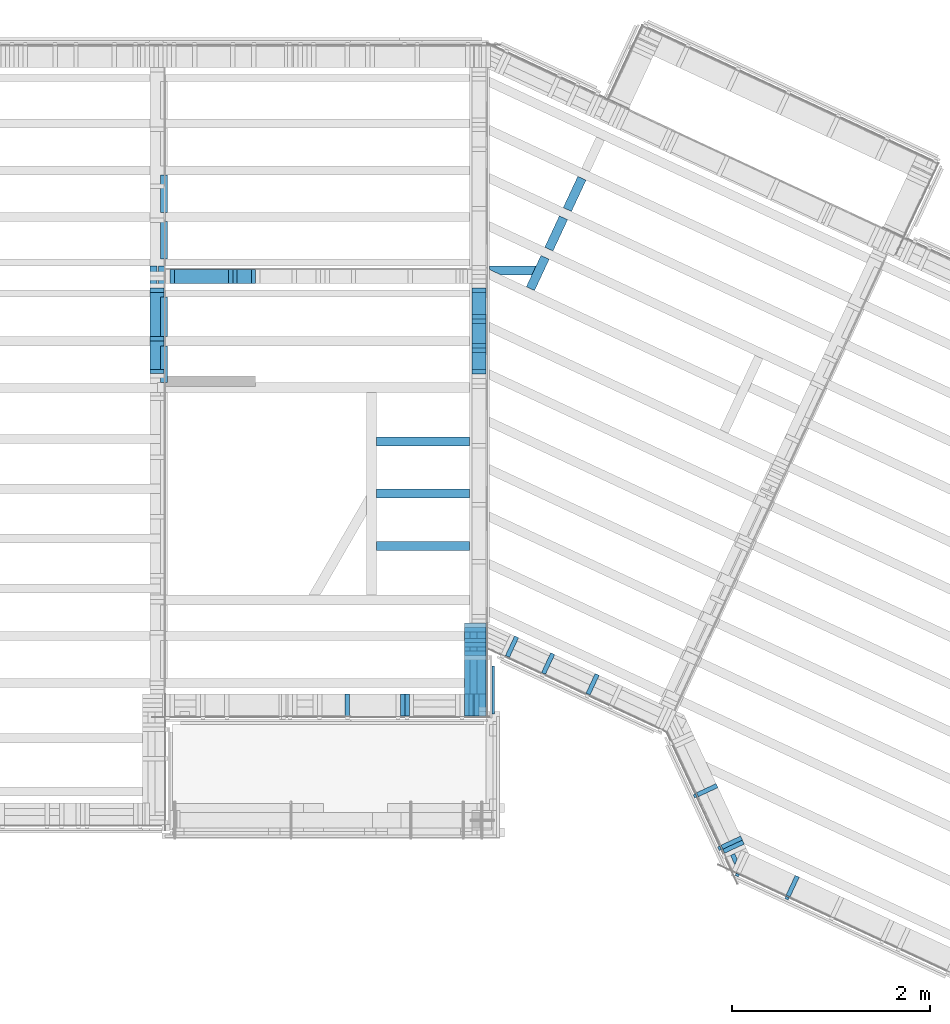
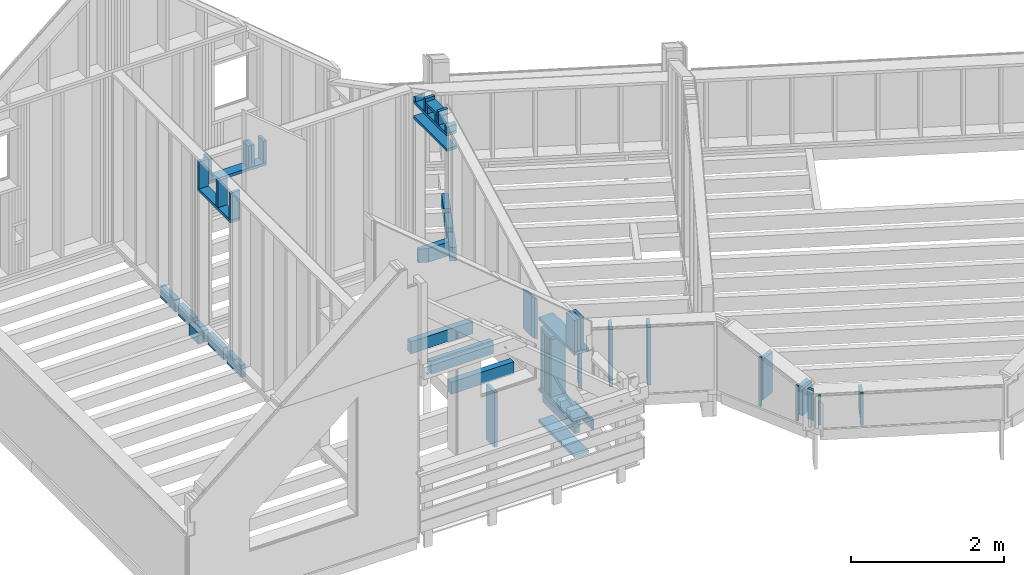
# One storey, part 16 of 24: 62 members.
"""IFC2X3 building model written with IfcOpenShell, lengths in metres."""

from ifc_helpers import new_model, si_unit, direction, frame, origin_with_axes, place, context, subcontext, project, spatial, faceted_brep, material, element, save


model = new_model("IFC2X3")

# Units and contexts
model_context = context("Model", 3, precision=1e-06, world=origin_with_axes(), true_north=direction((0.0, 1.0, 0.0)))
body_context = subcontext(model_context, "Body", "Model", "MODEL_VIEW")
ifc_project = project(units=[si_unit("LENGTHUNIT", "METRE"), si_unit("AREAUNIT", "SQUARE_METRE"), si_unit("VOLUMEUNIT", "CUBIC_METRE"), si_unit("PLANEANGLEUNIT", "RADIAN")], contexts=[model_context])

# Site, building, storey
site_placement = place(None, origin_with_axes())
site = spatial("IfcSite", under=ifc_project, at=site_placement, CompositionType="ELEMENT")
building_placement = place(site_placement, origin_with_axes())
building = spatial("IfcBuilding", under=site, at=building_placement, Name="Building 1", CompositionType="ELEMENT")
storey_placement = place(building_placement, origin_with_axes())
storey = spatial("IfcBuildingStorey", under=building, at=storey_placement, Name="Premier Etage", CompositionType="ELEMENT", Elevation=0.0)

# Members
ifc_material_1 = material(Name="NH II")
member_1_placement = place(storey_placement, frame((3.433, 4.8607176, 2.709), z_axis=(0.0, 0.0, -1.0), x_axis=(0.0, -1.0, 0.0)))
element("IfcMember", 1, at=member_1_placement, inside=storey, material=ifc_material_1, Name="Solive", context=body_context, shape_type="Brep", body=[
    faceted_brep([(0.0, -0.035, 0.096), (0.0, 0.035, 0.096), (0.0, 0.035, -0.096), (0.0, -0.035, -0.096), (0.3725, 0.035, 0.096), (0.3725, 0.035, -0.096), (0.3725, -0.035, 0.096), (0.3725, -0.035, -0.096)], [[[0, 1, 2, 3]], [[2, 1, 4, 5]], [[1, 0, 6, 4]], [[6, 7, 5, 4]], [[3, 2, 5, 7]], [[0, 3, 7, 6]]]),
])
for number, where, z_axis, x_axis in (
    (2, (3.433, 6.1181632, 2.709), (0.0, 0.0, -1.0), (0.0, -1.0, 0.0)),
    (3, (3.433, 6.5911088, 2.709), (0.0, 0.0, -1.0), (0.0, -1.0, 0.0)),
):
    element("IfcMember", number, at=place(storey_placement, frame(where, z_axis=z_axis, x_axis=x_axis)), inside=storey, material=ifc_material_1, Name="Solive", context=body_context, shape_type="Brep", body=[
        faceted_brep([(0.3809456, 0.035, -0.096), (0.3809456, 0.035, 0.096), (0.3809456, -0.035, 0.096), (0.3809456, -0.035, -0.096), (0.0, 0.035, 0.096), (0.0, -0.035, 0.096), (0.0, 0.035, -0.096), (0.0, -0.035, -0.096)], [[[0, 1, 2, 3]], [[2, 1, 4, 5]], [[1, 0, 6, 4]], [[0, 3, 7, 6]], [[3, 2, 5, 7]], [[7, 5, 4, 6]]]),
    ])
ifc_material_2 = material(Name="Epicéa C24")
member_2_placement = place(storey_placement, frame((6.586, 1.7257125, 3.8361408), z_axis=(-1.0, 0.0, 0.0), x_axis=(0.0, 1.0, 0.0)))
element("IfcMember", 4, at=member_2_placement, inside=storey, material=ifc_material_2, Name="Montant", context=body_context, shape_type="Brep", body=[
    faceted_brep([(0.0, -0.0225, 0.11), (0.0, 0.0225, 0.11), (0.0, 0.0225, -0.11), (0.0, -0.0225, -0.11), (0.2807619, 0.0225, 0.11), (0.2807619, 0.0225, -0.11), (0.2807619, -0.0225, 0.11), (0.2807619, -0.0225, -0.11)], [[[0, 1, 2, 3]], [[2, 1, 4, 5]], [[1, 0, 6, 4]], [[7, 5, 4, 6]], [[3, 2, 5, 7]], [[0, 3, 7, 6]]]),
])
member_3_placement = place(storey_placement, frame((3.413, 5.6672176, 2.709), z_axis=(0.0, 0.0, -1.0), x_axis=(0.0, -1.0, 0.0)))
element("IfcMember", 5, at=member_3_placement, inside=storey, material=ifc_material_1, Name="Solive", context=body_context, shape_type="Brep", body=[
    faceted_brep([(0.0, -0.035, 0.096), (0.0, 0.035, 0.096), (0.0, 0.035, -0.096), (0.0, -0.035, -0.096), (0.242, 0.035, 0.096), (0.242, 0.035, -0.096), (0.242, -0.035, 0.096), (0.242, -0.035, -0.096)], [[[0, 1, 2, 3]], [[2, 1, 4, 5]], [[1, 0, 6, 4]], [[5, 4, 6, 7]], [[3, 2, 5, 7]], [[0, 3, 7, 6]]]),
])
member_4_placement = place(storey_placement, frame((3.433, 5.3552176, 2.709), z_axis=(0.0, 0.0, -1.0), x_axis=(0.0, -1.0, 0.0)))
element("IfcMember", 6, at=member_4_placement, inside=storey, material=ifc_material_1, Name="Solive", context=body_context, shape_type="Brep", body=[
    faceted_brep([(0.0, 0.035, -0.096), (0.0, -0.035, -0.096), (0.0, -0.035, 0.096), (0.0, 0.035, 0.096), (0.4025, -0.035, -0.096), (0.4025, -0.035, 0.096), (0.4025, 0.035, -0.096), (0.4025, 0.035, 0.096)], [[[0, 1, 2, 3]], [[2, 1, 4, 5]], [[1, 0, 6, 4]], [[5, 4, 6, 7]], [[3, 2, 5, 7]], [[0, 3, 7, 6]]]),
])
member_5_placement = place(storey_placement, frame((6.6235, 4.8605254, 5.4693053), z_axis=(1.0, 0.0, 0.0), x_axis=(0.0, 0.0, -1.0)))
element("IfcMember", 7, at=member_5_placement, inside=storey, material=ifc_material_2, Name="Montant", context=body_context, shape_type="Brep", body=[
    faceted_brep([(0.0, 0.0225, 0.0725), (0.0, 0.0225, -0.0725), (0.0, -0.0225, -0.0725), (0.0, -0.0225, 0.0725), (0.1183053, 0.0225, -0.0725), (0.1183053, -0.0225, -0.0725), (0.1183053, 0.0225, 0.0725), (0.1183053, -0.0225, 0.0725)], [[[0, 1, 2, 3]], [[2, 1, 4, 5]], [[1, 0, 6, 4]], [[5, 4, 6, 7]], [[3, 2, 5, 7]], [[0, 3, 7, 6]]]),
])
member_6_placement = place(storey_placement, frame((6.586, 1.1578281, 2.8725), z_axis=(-1.0, 0.0, 0.0), x_axis=(0.0, 1.0, 0.0)))
element("IfcMember", 8, at=member_6_placement, inside=storey, material=ifc_material_2, Name="Montant", context=body_context, shape_type="Brep", body=[
    faceted_brep([(0.8486462, 0.0225, -0.11), (0.8486462, 0.0225, 0.11), (0.8486462, -0.0225, 0.11), (0.8486462, -0.0225, -0.11), (0.0, -0.0225, 0.11), (0.0, -0.0225, -0.11), (0.0, 0.0225, -0.11), (0.0, 0.0225, 0.11)], [[[0, 1, 2, 3]], [[4, 5, 3, 2]], [[5, 6, 0, 3]], [[6, 7, 1, 0]], [[7, 4, 2, 1]], [[6, 5, 4, 7]]]),
])
member_7_placement = place(storey_placement, frame((6.6235, 5.4452176, 5.0835), z_axis=(1.0, 0.0, 0.0), x_axis=(0.0, -1.0, 0.0)))
element("IfcMember", 9, at=member_7_placement, inside=storey, material=ifc_material_2, Name="Montant", context=body_context, shape_type="Brep", body=[
    faceted_brep([(0.0, 0.0225, -0.0725), (0.0, -0.0225, -0.0725), (0.0, -0.0225, 0.0725), (0.0, 0.0225, 0.0725), (0.87, 0.0225, -0.0725), (0.87, -0.0225, -0.0725), (0.87, 0.0225, 0.0725), (0.87, -0.0225, 0.0725)], [[[0, 1, 2, 3]], [[1, 0, 4, 5]], [[0, 3, 6, 4]], [[5, 4, 6, 7]], [[2, 1, 5, 7]], [[3, 2, 7, 6]]]),
])
member_8_placement = place(storey_placement, frame((6.586, 1.7482125, 3.8136408), z_axis=(1.0, 0.0, 0.0), x_axis=(0.0, 0.0, -1.0)))
element("IfcMember", 10, at=member_8_placement, inside=storey, material=ifc_material_2, Name="Montant", context=body_context, shape_type="Brep", body=[
    faceted_brep([(0.9186408, -0.0225, -0.11), (0.9186408, 0.0225, -0.11), (0.9186408, 0.0225, 0.11), (0.9186408, -0.0225, 0.11), (0.0, -0.0225, 0.11), (0.0, -0.0225, -0.11), (0.0, 0.0225, -0.11), (0.0, 0.0225, 0.11)], [[[0, 1, 2, 3]], [[0, 3, 4, 5]], [[1, 0, 5, 6]], [[2, 1, 6, 7]], [[3, 2, 7, 4]], [[4, 7, 6, 5]]]),
])
member_9_placement = place(storey_placement, frame((9.742866, -0.7329767, 3.3186496), z_axis=(-0.4226183, -0.9063078, 0.0), x_axis=(0.0, 0.0, -1.0)))
element("IfcMember", 11, at=member_9_placement, inside=storey, material=ifc_material_2, Name="latte 27/40", context=body_context, shape_type="Brep", body=[
    faceted_brep([(0.5086496, -0.02, 0.012), (0.0, -0.02, 0.012), (0.0, -0.02, -0.012), (0.5086496, -0.02, -0.012), (0.5086496, 0.02, -0.012), (0.0, 0.02, -0.012), (0.0, 0.02, 0.012), (0.5086496, 0.02, 0.012)], [[[0, 1, 2, 3]], [[4, 3, 2, 5]], [[6, 7, 4, 5]], [[0, 7, 6, 1]], [[7, 0, 3, 4]], [[1, 6, 5, 2]]]),
])
member_10_placement = place(storey_placement, frame((6.6235, 4.5977176, 5.4744199), z_axis=(1.0, 0.0, 0.0), x_axis=(0.0, 0.0, -1.0)))
element("IfcMember", 12, at=member_10_placement, inside=storey, material=ifc_material_2, Name="Montant", context=body_context, shape_type="Brep", body=[
    faceted_brep([(0.0235466, -0.0225, -0.0725), (0.0235466, -0.0225, 0.0725), (0.0, 0.0225, 0.0725), (0.0, 0.0225, -0.0725), (0.1234199, -0.0225, 0.0725), (0.1234199, 0.0225, 0.0725), (0.1234199, -0.0225, -0.0725), (0.1234199, 0.0225, -0.0725)], [[[0, 1, 2, 3]], [[2, 1, 4, 5]], [[1, 0, 6, 4]], [[5, 4, 6, 7]], [[0, 3, 7, 6]], [[3, 2, 5, 7]]]),
])
member_11_placement = place(storey_placement, frame((3.326, 5.6672176, 2.709), z_axis=(0.0, 0.0, -1.0), x_axis=(0.0, -1.0, 0.0)))
element("IfcMember", 13, at=member_11_placement, inside=storey, material=ifc_material_1, Name="Solive", context=body_context, shape_type="Brep", body=[
    faceted_brep([(0.0, -0.035, 0.096), (0.0, 0.035, 0.096), (0.0, 0.035, -0.096), (0.0, -0.035, -0.096), (0.242, 0.035, 0.096), (0.242, 0.035, -0.096), (0.242, -0.035, 0.096), (0.242, -0.035, -0.096)], [[[0, 1, 2, 3]], [[2, 1, 4, 5]], [[1, 0, 6, 4]], [[5, 4, 6, 7]], [[3, 2, 5, 7]], [[0, 3, 7, 6]]]),
])
member_12_placement = place(storey_placement, frame((7.2003883, 5.6212176, 2.695), z_axis=(0.0, 0.0, -1.0), x_axis=(-1.0, 0.0, 0.0)))
element("IfcMember", 14, at=member_12_placement, inside=storey, material=ifc_material_1, Name="Solive", context=body_context, shape_type="Brep", body=[
    faceted_brep([(0.0, 0.046, -0.11), (0.0429003, -0.046, -0.11), (0.0429003, -0.046, 0.11), (0.0, 0.046, 0.11), (0.3487381, -0.046, -0.11), (0.3487381, -0.046, 0.11), (0.4723883, 0.046, -0.11), (0.4723883, 0.011659, -0.11), (0.4723883, 0.011659, 0.11), (0.4723883, 0.046, 0.11)], [[[0, 1, 2, 3]], [[2, 1, 4, 5]], [[1, 0, 6, 7, 4]], [[5, 4, 7, 8]], [[8, 7, 6, 9]], [[3, 2, 5, 8, 9]], [[9, 6, 0, 3]]]),
])
for number, where, z_axis, x_axis in (
    (15, (5.587, 2.8332176, 2.709), (0.0, 0.0, -1.0), (1.0, 0.0, 0.0)),
    (16, (5.587, 3.3632176, 2.709), (0.0, 0.0, -1.0), (1.0, 0.0, 0.0)),
):
    element("IfcMember", number, at=place(storey_placement, frame(where, z_axis=z_axis, x_axis=x_axis)), inside=storey, material=ifc_material_1, Name="Solive", context=body_context, shape_type="Brep", body=[
        faceted_brep([(0.941, -0.046, 0.096), (0.941, -0.046, -0.096), (0.941, 0.046, -0.096), (0.941, 0.046, 0.096), (0.0, -0.046, -0.096), (0.0, -0.046, 0.096), (0.0, 0.046, 0.096), (0.0, 0.046, -0.096)], [[[0, 1, 2, 3]], [[4, 5, 6, 7]], [[3, 6, 5, 0]], [[2, 7, 6, 3]], [[1, 4, 7, 2]], [[0, 5, 4, 1]]]),
    ])
member_13_placement = place(storey_placement, frame((9.0592888, -0.227681, 3.3710833), z_axis=(-0.9063078, -0.4226183, 0.0), x_axis=(0.0, 0.0, -1.0)))
element("IfcMember", 17, at=member_13_placement, inside=storey, material=ifc_material_2, Name="latte 27/40", context=body_context, shape_type="Brep", body=[
    faceted_brep([(0.5610833, 0.02, -0.012), (0.5610833, 0.02, 0.012), (0.5610833, -0.02, 0.012), (0.5610833, -0.02, -0.012), (0.0, 0.02, 0.012), (0.0, 0.02, -0.012), (0.0, -0.02, -0.012), (0.0, -0.02, 0.012)], [[[0, 1, 2, 3]], [[4, 5, 6, 7]], [[3, 6, 5, 0]], [[2, 7, 6, 3]], [[1, 4, 7, 2]], [[0, 5, 4, 1]]]),
])
member_14_placement = place(storey_placement, frame((7.4791913, 6.1562674, 2.695), z_axis=(0.0, 0.0, -1.0), x_axis=(-0.4226183, -0.9063078, 0.0)))
element("IfcMember", 18, at=member_14_placement, inside=storey, material=ifc_material_1, Name="Solive", context=body_context, shape_type="Brep", body=[
    faceted_brep([(0.0, -0.046, -0.11), (0.0, -0.046, 0.11), (0.0, 0.046, 0.11), (0.0, 0.046, -0.11), (0.3499101, 0.046, -0.11), (0.3499101, -0.046, -0.11), (0.3499101, 0.046, 0.11), (0.3499101, -0.046, 0.11)], [[[0, 1, 2, 3]], [[4, 5, 0, 3]], [[6, 4, 3, 2]], [[7, 6, 2, 1]], [[5, 7, 1, 0]], [[7, 5, 4, 6]]]),
])
member_15_placement = place(storey_placement, frame((6.586, 1.1128281, 3.9603151), z_axis=(-1.0, 0.0, 0.0), x_axis=(0.0, 1.0, 0.0)))
element("IfcMember", 19, at=member_15_placement, inside=storey, material=ifc_material_2, Name="Montant", context=body_context, shape_type="Brep", body=[
    faceted_brep([(0.9386462, -0.0225, -0.11), (0.9386462, 0.0225, -0.11), (0.9386462, 0.0225, 0.11), (0.9386462, -0.0225, 0.11), (0.0, 0.0225, 0.11), (0.0, 0.0225, -0.11), (0.0, -0.0225, -0.11), (0.0, -0.0225, 0.11)], [[[0, 1, 2, 3]], [[4, 5, 6, 7]], [[2, 4, 7, 3]], [[1, 5, 4, 2]], [[0, 6, 5, 1]], [[3, 7, 6, 0]]]),
])
member_16_placement = place(storey_placement, frame((6.586, 1.3328281, 2.8275), z_axis=(-1.0, 0.0, 0.0), x_axis=(0.0, 1.0, 0.0)))
element("IfcMember", 20, at=member_16_placement, inside=storey, material=ifc_material_2, Name="Lisse basse", context=body_context, shape_type="Brep", body=[
    faceted_brep([(0.0, 0.0225, -0.11), (0.7186462, 0.0225, -0.11), (0.7186462, -0.0225, -0.11), (0.0, -0.0225, -0.11), (0.7186462, 0.0225, 0.11), (0.7186462, -0.0225, 0.11), (0.0, -0.0225, 0.11), (0.0, 0.0225, 0.11)], [[[0, 1, 2, 3]], [[2, 1, 4, 5]], [[3, 6, 7, 0]], [[6, 5, 4, 7]], [[7, 4, 1, 0]], [[3, 2, 5, 6]]]),
])
member_17_placement = place(storey_placement, frame((6.6235, 5.4452176, 5.3285), z_axis=(1.0, 0.0, 0.0), x_axis=(0.0, -1.0, 0.0)))
element("IfcMember", 21, at=member_17_placement, inside=storey, material=ifc_material_2, Name="Montant", context=body_context, shape_type="Brep", body=[
    faceted_brep([(0.0, 0.0225, -0.0725), (0.0, -0.0225, -0.0725), (0.0, -0.0225, 0.0725), (0.0, 0.0225, 0.0725), (0.87, 0.0225, -0.0725), (0.87, -0.0225, -0.0725), (0.87, 0.0225, 0.0725), (0.87, -0.0225, 0.0725)], [[[0, 1, 2, 3]], [[1, 0, 4, 5]], [[0, 3, 6, 4]], [[5, 4, 6, 7]], [[2, 1, 5, 7]], [[3, 2, 7, 6]]]),
])
member_18_placement = place(storey_placement, frame((6.586, 1.1128281, 2.3275), z_axis=(-1.0, 0.0, 0.0), x_axis=(0.0, 1.0, 0.0)))
element("IfcMember", 22, at=member_18_placement, inside=storey, material=ifc_material_2, Name="Montant", context=body_context, shape_type="Brep", body=[
    faceted_brep([(0.9386462, -0.0225, -0.11), (0.9386462, 0.0225, -0.11), (0.9386462, 0.0225, 0.11), (0.9386462, -0.0225, 0.11), (0.0, 0.0225, 0.11), (0.0, 0.0225, -0.11), (0.0, -0.0225, -0.11), (0.0, -0.0225, 0.11)], [[[0, 1, 2, 3]], [[4, 5, 6, 7]], [[2, 4, 7, 3]], [[1, 5, 4, 2]], [[0, 6, 5, 1]], [[3, 7, 6, 0]]]),
])
member_19_placement = place(storey_placement, frame((6.6235, 5.1544112, 5.565), z_axis=(1.0, 0.0, 0.0), x_axis=(0.0, 0.0, -1.0)))
element("IfcMember", 23, at=member_19_placement, inside=storey, material=ifc_material_2, Name="Montant", context=body_context, shape_type="Brep", body=[
    faceted_brep([(0.214, -0.0225, -0.0725), (0.214, 0.0225, -0.0725), (0.214, 0.0225, 0.0725), (0.214, -0.0225, 0.0725), (0.0, 0.0225, -0.0725), (0.0, 0.0225, 0.0725), (0.0, -0.0225, -0.0725), (0.0, -0.0225, 0.0725)], [[[0, 1, 2, 3]], [[2, 1, 4, 5]], [[1, 0, 6, 4]], [[7, 5, 4, 6]], [[0, 3, 7, 6]], [[3, 2, 5, 7]]]),
])
for number, where, z_axis, x_axis in (
    (24, (7.292432, 5.7557608, 2.695), (0.0, 0.0, -1.0), (-0.4226183, -0.9063078, 0.0)),
    (25, (7.6659506, 6.556774, 2.695), (0.0, 0.0, -1.0), (-0.4226183, -0.9063078, 0.0)),
):
    element("IfcMember", number, at=place(storey_placement, frame(where, z_axis=z_axis, x_axis=x_axis)), inside=storey, material=ifc_material_1, Name="Solive", context=body_context, shape_type="Brep", body=[
        faceted_brep([(0.0, -0.046, -0.11), (0.0, -0.046, 0.11), (0.0, 0.046, 0.11), (0.0, 0.046, -0.11), (0.3499101, 0.046, -0.11), (0.3499101, -0.046, -0.11), (0.3499101, 0.046, 0.11), (0.3499101, -0.046, 0.11)], [[[0, 1, 2, 3]], [[4, 5, 0, 3]], [[6, 4, 3, 2]], [[7, 6, 2, 1]], [[5, 7, 1, 0]], [[7, 5, 4, 6]]]),
    ])
member_20_placement = place(storey_placement, frame((9.1816403, -0.1706276, 3.3441899), z_axis=(-0.9063078, -0.4226183, 0.0), x_axis=(0.0, 0.0, -1.0)))
element("IfcMember", 26, at=member_20_placement, inside=storey, material=ifc_material_2, Name="Montant", context=body_context, shape_type="Brep", body=[
    faceted_brep([(0.0167001, 0.0225, 0.11), (0.0167001, 0.0225, -0.11), (0.0, -0.0225, -0.11), (0.0, -0.0225, 0.11), (0.4491899, 0.0225, -0.11), (0.4491899, -0.0225, -0.11), (0.4491899, 0.0225, 0.11), (0.4491899, -0.0225, 0.11)], [[[0, 1, 2, 3]], [[2, 1, 4, 5]], [[1, 0, 6, 4]], [[0, 3, 7, 6]], [[3, 2, 5, 7]], [[5, 4, 6, 7]]]),
])
member_21_placement = place(storey_placement, frame((6.586, 1.9839744, 3.8136408), z_axis=(1.0, 0.0, 0.0), x_axis=(0.0, 0.0, -1.0)))
element("IfcMember", 27, at=member_21_placement, inside=storey, material=ifc_material_2, Name="Montant", context=body_context, shape_type="Brep", body=[
    faceted_brep([(0.9186408, -0.0225, -0.11), (0.9186408, 0.0225, -0.11), (0.9186408, 0.0225, 0.11), (0.9186408, -0.0225, 0.11), (0.0, -0.0225, 0.11), (0.0, -0.0225, -0.11), (0.0, 0.0225, -0.11), (0.0, 0.0225, 0.11)], [[[0, 1, 2, 3]], [[0, 3, 4, 5]], [[1, 0, 5, 6]], [[2, 1, 6, 7]], [[3, 2, 7, 4]], [[4, 7, 6, 5]]]),
])
member_22_placement = place(storey_placement, frame((4.153, 5.5627176, 5.4543053), z_axis=(0.0, 1.0, 0.0), x_axis=(0.0, 0.0, -1.0)))
element("IfcMember", 28, at=member_22_placement, inside=storey, material=ifc_material_2, Name="Montant", context=body_context, shape_type="Brep", body=[
    faceted_brep([(0.3483053, -0.0225, 0.0725), (0.3483053, 0.0225, 0.0725), (0.0, 0.0225, 0.0725), (0.0, -0.0225, 0.0725), (0.3483053, 0.0225, -0.0725), (0.3483053, -0.0225, -0.0725), (0.0, 0.0225, -0.0725), (0.0, -0.0225, -0.0725)], [[[0, 1, 2, 3]], [[4, 1, 0, 5]], [[1, 4, 6, 2]], [[4, 5, 7, 6]], [[5, 0, 3, 7]], [[3, 2, 6, 7]]]),
])
member_23_placement = place(storey_placement, frame((6.586, 1.8761585, 3.8136408), z_axis=(1.0, 0.0, 0.0), x_axis=(0.0, 0.0, -1.0)))
element("IfcMember", 29, at=member_23_placement, inside=storey, material=ifc_material_2, Name="Montant", context=body_context, shape_type="Brep", body=[
    faceted_brep([(0.9186408, -0.0225, -0.11), (0.9186408, 0.0225, -0.11), (0.9186408, 0.0225, 0.11), (0.9186408, -0.0225, 0.11), (0.0, -0.0225, 0.11), (0.0, -0.0225, -0.11), (0.0, 0.0225, -0.11), (0.0, 0.0225, 0.11)], [[[0, 1, 2, 3]], [[0, 3, 4, 5]], [[1, 0, 5, 6]], [[2, 1, 6, 7]], [[3, 2, 7, 4]], [[4, 7, 6, 5]]]),
])
member_24_placement = place(storey_placement, frame((8.934, 0.3604388, 3.5616502), z_axis=(-0.9063078, -0.4226183, 0.0), x_axis=(0.0, 0.0, -1.0)))
element("IfcMember", 30, at=member_24_placement, inside=storey, material=ifc_material_2, Name="Montant", context=body_context, shape_type="Brep", body=[
    faceted_brep([(0.0167001, 0.0225, 0.11), (0.0, -0.0225, 0.11), (0.6666502, -0.0225, 0.11), (0.6666502, 0.0225, 0.11), (0.0, -0.0225, -0.11), (0.6666502, -0.0225, -0.11), (0.0167001, 0.0225, -0.11), (0.6666502, 0.0225, -0.11)], [[[0, 1, 2, 3]], [[1, 4, 5, 2]], [[4, 6, 7, 5]], [[6, 0, 3, 7]], [[0, 6, 4, 1]], [[5, 7, 3, 2]]]),
])
member_25_placement = place(storey_placement, frame((7.7740989, 1.4329, 3.8136408), z_axis=(-0.4226183, -0.9063078, 0.0), x_axis=(0.0, 0.0, -1.0)))
element("IfcMember", 31, at=member_25_placement, inside=storey, material=ifc_material_2, Name="Montant", context=body_context, shape_type="Brep", body=[
    faceted_brep([(0.9186408, -0.0225, -0.11), (0.9186408, 0.0225, -0.11), (0.9186408, 0.0225, 0.11), (0.9186408, -0.0225, 0.11), (0.0, 0.0225, -0.11), (0.0, 0.0225, 0.11), (0.0, -0.0225, -0.11), (0.0, -0.0225, 0.11)], [[[0, 1, 2, 3]], [[2, 1, 4, 5]], [[1, 0, 6, 4]], [[0, 3, 7, 6]], [[3, 2, 5, 7]], [[7, 5, 4, 6]]]),
])
member_26_placement = place(storey_placement, frame((5.587, 3.8932176, 2.709), z_axis=(0.0, 0.0, -1.0), x_axis=(1.0, 0.0, 0.0)))
element("IfcMember", 32, at=member_26_placement, inside=storey, material=ifc_material_1, Name="Solive", context=body_context, shape_type="Brep", body=[
    faceted_brep([(0.941, -0.046, 0.096), (0.941, -0.046, -0.096), (0.941, 0.046, -0.096), (0.941, 0.046, 0.096), (0.0, -0.046, -0.096), (0.0, -0.046, 0.096), (0.0, 0.046, 0.096), (0.0, 0.046, -0.096)], [[[0, 1, 2, 3]], [[4, 5, 6, 7]], [[3, 6, 5, 0]], [[2, 7, 6, 3]], [[1, 4, 7, 2]], [[0, 5, 4, 1]]]),
])
member_27_placement = place(storey_placement, frame((9.2398652, -0.4984236, 3.3186496), z_axis=(-0.4226183, -0.9063078, 0.0), x_axis=(0.0, 0.0, -1.0)))
element("IfcMember", 33, at=member_27_placement, inside=storey, material=ifc_material_2, Name="latte 27/40", context=body_context, shape_type="Brep", body=[
    faceted_brep([(0.4686496, 0.02, 0.012), (0.0, 0.02, 0.012), (0.0, -0.02, 0.012), (0.4686496, -0.02, 0.012), (0.0, -0.02, -0.012), (0.4686496, -0.02, -0.012), (0.0, 0.02, -0.012), (0.4686496, 0.02, -0.012)], [[[0, 1, 2, 3]], [[3, 2, 4, 5]], [[5, 4, 6, 7]], [[7, 6, 1, 0]], [[7, 0, 3, 5]], [[1, 6, 4, 2]]]),
])
member_28_placement = place(storey_placement, frame((6.6235, 4.8155254, 5.565), z_axis=(1.0, 0.0, 0.0), x_axis=(0.0, 0.0, -1.0)))
element("IfcMember", 34, at=member_28_placement, inside=storey, material=ifc_material_2, Name="Montant", context=body_context, shape_type="Brep", body=[
    faceted_brep([(0.214, -0.0225, -0.0725), (0.214, 0.0225, -0.0725), (0.214, 0.0225, 0.0725), (0.214, -0.0225, 0.0725), (0.0, 0.0225, -0.0725), (0.0, 0.0225, 0.0725), (0.0, -0.0225, -0.0725), (0.0, -0.0225, 0.0725)], [[[0, 1, 2, 3]], [[2, 1, 4, 5]], [[1, 0, 6, 4]], [[7, 5, 4, 6]], [[0, 3, 7, 6]], [[3, 2, 5, 7]]]),
])
member_29_placement = place(storey_placement, frame((6.7675, 1.1328281, 2.7225), z_axis=(0.0, 0.0, -1.0), x_axis=(0.0, 1.0, 0.0)))
element("IfcMember", 35, at=member_29_placement, inside=storey, material=ifc_material_1, Name="contre poutre", context=body_context, shape_type="Brep", body=[
    faceted_brep([(0.4853844, 0.0135, -0.0825), (0.4853844, 0.0135, 0.0825), (0.4853844, -0.0135, 0.0825), (0.4853844, -0.0135, -0.0825), (0.0, 0.0135, 0.0825), (0.0, 0.0135, -0.0825), (0.0, -0.0135, -0.0825), (0.0, -0.0135, 0.0825)], [[[0, 1, 2, 3]], [[4, 5, 6, 7]], [[3, 6, 5, 0]], [[2, 7, 6, 3]], [[1, 4, 7, 2]], [[0, 5, 4, 1]]]),
])
member_30_placement = place(storey_placement, frame((6.6235, 5.1319112, 5.4918053), z_axis=(1.0, 0.0, 0.0), x_axis=(0.0, -1.0, 0.0)))
element("IfcMember", 36, at=member_30_placement, inside=storey, material=ifc_material_2, Name="Montant", context=body_context, shape_type="Brep", body=[
    faceted_brep([(0.2938859, -0.0225, -0.0725), (0.2938859, 0.0225, -0.0725), (0.2938859, 0.0225, 0.0725), (0.2938859, -0.0225, 0.0725), (0.0, 0.0225, -0.0725), (0.0, 0.0225, 0.0725), (0.0, -0.0225, -0.0725), (0.0, -0.0225, 0.0725)], [[[0, 1, 2, 3]], [[2, 1, 4, 5]], [[1, 0, 6, 4]], [[4, 6, 7, 5]], [[0, 3, 7, 6]], [[3, 2, 5, 7]]]),
])
member_31_placement = place(storey_placement, frame((6.6235, 5.1094112, 5.4693053), z_axis=(1.0, 0.0, 0.0), x_axis=(0.0, 0.0, -1.0)))
element("IfcMember", 37, at=member_31_placement, inside=storey, material=ifc_material_2, Name="Montant", context=body_context, shape_type="Brep", body=[
    faceted_brep([(0.0, 0.0225, 0.0725), (0.0, 0.0225, -0.0725), (0.0, -0.0225, -0.0725), (0.0, -0.0225, 0.0725), (0.1183053, 0.0225, -0.0725), (0.1183053, -0.0225, -0.0725), (0.1183053, 0.0225, 0.0725), (0.1183053, -0.0225, 0.0725)], [[[0, 1, 2, 3]], [[2, 1, 4, 5]], [[1, 0, 6, 4]], [[5, 4, 6, 7]], [[3, 2, 5, 7]], [[0, 3, 7, 6]]]),
])
member_32_placement = place(storey_placement, frame((9.2006582, -0.2114114, 3.3274898), z_axis=(-0.9063078, -0.4226183, 0.0), x_axis=(0.0, 0.0, -1.0)))
element("IfcMember", 38, at=member_32_placement, inside=storey, material=ifc_material_2, Name="Montant", context=body_context, shape_type="Brep", body=[
    faceted_brep([(0.0167001, 0.0225, -0.11), (0.0, -0.0225, -0.11), (0.0, -0.0225, 0.11), (0.0167001, 0.0225, 0.11), (0.4324898, -0.0225, -0.11), (0.4324898, -0.0225, 0.11), (0.4324898, 0.0225, -0.11), (0.4324898, 0.0225, 0.11)], [[[0, 1, 2, 3]], [[2, 1, 4, 5]], [[1, 0, 6, 4]], [[0, 3, 7, 6]], [[4, 6, 7, 5]], [[3, 2, 5, 7]]]),
])
member_33_placement = place(storey_placement, frame((6.6005, 1.2228281, 4.4948822), z_axis=(0.0, 1.0, 0.0), x_axis=(0.0, 0.0, -1.0)))
element("IfcMember", 39, at=member_33_placement, inside=storey, material=ifc_material_2, Name="Montant", context=body_context, shape_type="Brep", body=[
    faceted_brep([(0.0, 0.0225, -0.11), (0.0, -0.0225, -0.11), (0.0, -0.0225, 0.11), (0.0, 0.0225, 0.11), (0.5020671, -0.0225, -0.11), (0.5020671, -0.0225, 0.11), (0.5020671, 0.0225, -0.11), (0.5020671, 0.0225, 0.11)], [[[0, 1, 2, 3]], [[2, 1, 4, 5]], [[1, 0, 6, 4]], [[0, 3, 7, 6]], [[3, 2, 5, 7]], [[4, 6, 7, 5]]]),
])
member_34_placement = place(storey_placement, frame((9.2125698, -0.3375196, 2.85), z_axis=(0.4226183, -0.9063078, 0.0), x_axis=(0.0, 0.0, 1.0)))
element("IfcMember", 40, at=member_34_placement, inside=storey, material=ifc_material_2, Name="Montant", context=body_context, shape_type="Brep", body=[
    faceted_brep([(0.4736496, -0.0225, -0.0518269), (0.4736496, -0.0225, 0.0140674), (0.0, -0.0225, 0.0140674), (0.0, -0.0225, -0.0518269), (0.4736496, 0.0225, -0.0518269), (0.0, 0.0225, -0.0518269), (0.4736496, 0.0225, 0.0518269), (0.0, 0.0225, 0.0518269)], [[[0, 1, 2, 3]], [[4, 0, 3, 5]], [[6, 4, 5, 7]], [[2, 7, 5, 3]], [[1, 6, 7, 2]], [[6, 1, 0, 4]]]),
])
for number, where, z_axis, x_axis, name in (
    (41, (4.108, 5.5627176, 5.4543053), (0.0, 1.0, 0.0), (0.0, 0.0, -1.0), "Montant"),
    (42, (4.3405, 5.5627176, 5.4543053), (0.0, 1.0, 0.0), (0.0, 0.0, -1.0), "Montant"),
):
    element("IfcMember", number, at=place(storey_placement, frame(where, z_axis=z_axis, x_axis=x_axis)), inside=storey, material=ifc_material_2, Name=name, context=body_context, shape_type="Brep", body=[
        faceted_brep([(0.3483053, -0.0225, 0.0725), (0.3483053, 0.0225, 0.0725), (0.0, 0.0225, 0.0725), (0.0, -0.0225, 0.0725), (0.3483053, 0.0225, -0.0725), (0.3483053, -0.0225, -0.0725), (0.0, 0.0225, -0.0725), (0.0, -0.0225, -0.0725)], [[[0, 1, 2, 3]], [[4, 1, 0, 5]], [[1, 4, 6, 2]], [[4, 5, 7, 6]], [[5, 0, 3, 7]], [[3, 2, 6, 7]]]),
    ])
member_35_placement = place(storey_placement, frame((6.5435, 1.2228281, 4.4948822), z_axis=(0.0, 1.0, 0.0), x_axis=(0.0, 0.0, -1.0)))
element("IfcMember", 43, at=member_35_placement, inside=storey, material=ifc_material_2, Name="Montant", context=body_context, shape_type="Brep", body=[
    faceted_brep([(0.0, 0.0225, -0.11), (0.0, -0.0225, -0.11), (0.0, -0.0225, 0.11), (0.0, 0.0225, 0.11), (0.5020671, -0.0225, -0.11), (0.5020671, -0.0225, 0.11), (0.5020671, 0.0225, -0.11), (0.5020671, 0.0225, 0.11)], [[[0, 1, 2, 3]], [[2, 1, 4, 5]], [[1, 0, 6, 4]], [[0, 3, 7, 6]], [[3, 2, 5, 7]], [[4, 6, 7, 5]]]),
])
member_36_placement = place(storey_placement, frame((6.572, 1.2228281, 4.4948822), z_axis=(0.0, 1.0, 0.0), x_axis=(0.0, 0.0, -1.0)))
element("IfcMember", 44, at=member_36_placement, inside=storey, material=ifc_material_2, Name="Montant", context=body_context, shape_type="Brep", body=[
    faceted_brep([(0.0, -0.006, -0.11), (0.0, -0.006, 0.11), (0.0, 0.006, 0.11), (0.0, 0.006, -0.11), (0.5020671, -0.006, 0.11), (0.5020671, 0.006, 0.11), (0.5020671, -0.006, -0.11), (0.5020671, 0.006, -0.11)], [[[0, 1, 2, 3]], [[2, 1, 4, 5]], [[1, 0, 6, 4]], [[0, 3, 7, 6]], [[3, 2, 5, 7]], [[4, 6, 7, 5]]]),
])
member_37_placement = place(storey_placement, frame((6.4985, 1.2228281, 4.4948822), z_axis=(0.0, 1.0, 0.0), x_axis=(0.0, 0.0, -1.0)))
element("IfcMember", 45, at=member_37_placement, inside=storey, material=ifc_material_2, Name="Montant", context=body_context, shape_type="Brep", body=[
    faceted_brep([(0.0, 0.0225, -0.11), (0.0, -0.0225, -0.11), (0.0, -0.0225, 0.11), (0.0, 0.0225, 0.11), (0.5020671, -0.0225, -0.11), (0.5020671, -0.0225, 0.11), (0.5020671, 0.0225, -0.11), (0.5020671, 0.0225, 0.11)], [[[0, 1, 2, 3]], [[2, 1, 4, 5]], [[1, 0, 6, 4]], [[0, 3, 7, 6]], [[3, 2, 5, 7]], [[4, 6, 7, 5]]]),
])
member_38_placement = place(storey_placement, frame((3.3635, 4.9308281, 5.5354713), z_axis=(1.0, 0.0, 0.0), x_axis=(0.0, 0.0, -1.0)))
element("IfcMember", 46, at=member_38_placement, inside=storey, material=ifc_material_2, Name="Montant", context=body_context, shape_type="Brep", body=[
    faceted_brep([(0.0, -0.0225, 0.0725), (0.0, 0.0225, 0.0725), (0.0, 0.0225, -0.0725), (0.0, -0.0225, -0.0725), (0.4294713, 0.0225, -0.0725), (0.4294713, -0.0225, -0.0725), (0.4294713, -0.0225, 0.0725), (0.4294713, 0.0225, 0.0725)], [[[0, 1, 2, 3]], [[4, 5, 3, 2]], [[5, 6, 0, 3]], [[7, 4, 2, 1]], [[6, 7, 1, 0]], [[6, 5, 4, 7]]]),
])
for number, where, z_axis, x_axis, name in (
    (47, (7.3235733, 1.6429835, 3.8136408), (-0.4226183, -0.9063078, 0.0), (0.0, 0.0, -1.0), "Montant"),
    (48, (6.957998, 1.8134541, 3.8136408), (-0.4226183, -0.9063078, 0.0), (0.0, 0.0, -1.0), "Montant"),
):
    element("IfcMember", number, at=place(storey_placement, frame(where, z_axis=z_axis, x_axis=x_axis)), inside=storey, material=ifc_material_2, Name=name, context=body_context, shape_type="Brep", body=[
        faceted_brep([(0.9186408, -0.0225, -0.11), (0.9186408, 0.0225, -0.11), (0.9186408, 0.0225, 0.11), (0.9186408, -0.0225, 0.11), (0.0, 0.0225, -0.11), (0.0, 0.0225, 0.11), (0.0, -0.0225, -0.11), (0.0, -0.0225, 0.11)], [[[0, 1, 2, 3]], [[2, 1, 4, 5]], [[1, 0, 6, 4]], [[0, 3, 7, 6]], [[3, 2, 5, 7]], [[7, 5, 4, 6]]]),
    ])
member_39_placement = place(storey_placement, frame((8.8116485, 0.3033854, 3.5885436), z_axis=(-0.9063078, -0.4226183, 0.0), x_axis=(0.0, 0.0, -1.0)))
element("IfcMember", 49, at=member_39_placement, inside=storey, material=ifc_material_2, Name="latte 27/40", context=body_context, shape_type="Brep", body=[
    faceted_brep([(0.7785436, 0.02, 0.012), (0.0, 0.02, 0.012), (0.0, -0.02, 0.012), (0.7785436, -0.02, 0.012), (0.0, -0.02, -0.012), (0.7785436, -0.02, -0.012), (0.0, 0.02, -0.012), (0.7785436, 0.02, -0.012)], [[[0, 1, 2, 3]], [[3, 2, 4, 5]], [[5, 4, 6, 7]], [[7, 6, 1, 0]], [[7, 0, 3, 5]], [[1, 6, 4, 2]]]),
])
member_40_placement = place(storey_placement, frame((9.7999195, -0.6106252, 3.2786496), z_axis=(-0.4226183, -0.9063078, 0.0), x_axis=(0.0, 0.0, -1.0)))
element("IfcMember", 50, at=member_40_placement, inside=storey, material=ifc_material_2, Name="Montant", context=body_context, shape_type="Brep", body=[
    faceted_brep([(0.3836496, -0.0225, -0.11), (0.3836496, 0.0225, -0.11), (0.3836496, 0.0225, 0.11), (0.3836496, -0.0225, 0.11), (0.0, 0.0225, -0.11), (0.0, 0.0225, 0.11), (0.0, -0.0225, -0.11), (0.0, -0.0225, 0.11)], [[[0, 1, 2, 3]], [[2, 1, 4, 5]], [[1, 0, 6, 4]], [[0, 3, 7, 6]], [[3, 2, 5, 7]], [[7, 5, 4, 6]]]),
])
member_41_placement = place(storey_placement, frame((6.65, 2.0514744, 2.709), z_axis=(0.0, 0.0, -1.0), x_axis=(0.0, -1.0, 0.0)))
element("IfcMember", 51, at=member_41_placement, inside=storey, material=ifc_material_1, Name="Ceinture", context=body_context, shape_type="Brep", body=[
    faceted_brep([(0.0, -0.046, 0.096), (0.0, 0.046, 0.096), (0.0, 0.046, -0.096), (0.0, -0.046, -0.096), (0.7186462, 0.046, 0.096), (0.7186462, 0.046, -0.096), (0.7186462, -0.046, 0.096), (0.7186462, -0.046, -0.096)], [[[0, 1, 2, 3]], [[2, 1, 4, 5]], [[1, 0, 6, 4]], [[6, 7, 5, 4]], [[3, 2, 5, 7]], [[0, 3, 7, 6]]]),
])
member_42_placement = place(storey_placement, frame((6.586, 1.8311585, 3.8136408), z_axis=(1.0, 0.0, 0.0), x_axis=(0.0, 0.0, -1.0)))
element("IfcMember", 52, at=member_42_placement, inside=storey, material=ifc_material_2, Name="Montant", context=body_context, shape_type="Brep", body=[
    faceted_brep([(0.9186408, -0.0225, -0.11), (0.9186408, 0.0225, -0.11), (0.9186408, 0.0225, 0.11), (0.9186408, -0.0225, 0.11), (0.0, -0.0225, 0.11), (0.0, -0.0225, -0.11), (0.0, 0.0225, -0.11), (0.0, 0.0225, 0.11)], [[[0, 1, 2, 3]], [[0, 3, 4, 5]], [[1, 0, 5, 6]], [[2, 1, 6, 7]], [[3, 2, 7, 4]], [[4, 7, 6, 5]]]),
])
member_43_placement = place(storey_placement, frame((6.569, 1.2048281, 2.709), z_axis=(0.0, 0.0, -1.0), x_axis=(0.0, 1.0, 0.0)))
element("IfcMember", 53, at=member_43_placement, inside=storey, material=ifc_material_1, Name="Ceinture", context=body_context, shape_type="Brep", body=[
    faceted_brep([(0.07, -0.035, -0.096), (0.07, -0.035, 0.0), (0.07, 0.035, 0.0), (0.07, 0.035, -0.096), (0.0, -0.035, 0.0), (0.0, 0.035, 0.0), (0.8466462, 0.035, -0.096), (0.8466462, -0.035, -0.096), (0.0, 0.035, 0.096), (0.8466462, 0.035, 0.096), (0.0, -0.035, 0.096), (0.8466462, -0.035, 0.096)], [[[0, 1, 2, 3]], [[1, 4, 5, 2]], [[0, 3, 6, 7]], [[3, 2, 5, 8, 9, 6]], [[5, 4, 10, 8]], [[6, 9, 11, 7]], [[10, 11, 9, 8]], [[1, 0, 7, 11, 10, 4]]]),
])
member_44_placement = place(storey_placement, frame((3.493, 5.5627176, 5.0835), z_axis=(0.0, 1.0, 0.0), x_axis=(1.0, 0.0, 0.0)))
element("IfcMember", 54, at=member_44_placement, inside=storey, material=ifc_material_2, Name="Montant", context=body_context, shape_type="Brep", body=[
    faceted_brep([(0.0, 0.0225, -0.0725), (0.0, -0.0225, -0.0725), (0.0, -0.0225, 0.0725), (0.0, 0.0225, 0.0725), (0.87, 0.0225, -0.0725), (0.87, -0.0225, -0.0725), (0.87, 0.0225, 0.0725), (0.87, -0.0225, 0.0725)], [[[0, 1, 2, 3]], [[1, 0, 4, 5]], [[0, 3, 6, 4]], [[5, 4, 6, 7]], [[2, 1, 5, 7]], [[3, 2, 7, 6]]]),
])
member_45_placement = place(storey_placement, frame((5.8950389, 1.2228281, 5.0658505), z_axis=(0.0, 1.0, 0.0), x_axis=(0.0, 0.0, -1.0)))
element("IfcMember", 55, at=member_45_placement, inside=storey, material=ifc_material_2, Name="Montant", context=body_context, shape_type="Brep", body=[
    faceted_brep([(0.0377595, -0.0225, -0.11), (0.0, 0.0225, -0.11), (0.6409508, 0.0225, -0.11), (0.6787103, -0.0225, -0.11), (0.6409508, 0.0225, 0.11), (0.0, 0.0225, 0.11), (0.6787103, -0.0225, 0.11), (0.0377595, -0.0225, 0.11)], [[[0, 1, 2, 3]], [[4, 2, 1, 5]], [[6, 4, 5, 7]], [[0, 7, 5, 1]], [[3, 6, 7, 0]], [[2, 4, 6, 3]]]),
])
member_46_placement = place(storey_placement, frame((5.2903666, 1.2228281, 3.768), z_axis=(0.0, 1.0, 0.0), x_axis=(0.0, 0.0, -1.0)))
element("IfcMember", 56, at=member_46_placement, inside=storey, material=ifc_material_2, Name="Montant", context=body_context, shape_type="Brep", body=[
    faceted_brep([(0.0, -0.0225, -0.11), (0.0, -0.0225, 0.11), (0.0, 0.0225, 0.11), (0.0, 0.0225, -0.11), (0.873, 0.0225, -0.11), (0.873, -0.0225, -0.11), (0.873, -0.0225, 0.11), (0.873, 0.0225, 0.11)], [[[0, 1, 2, 3]], [[0, 3, 4, 5]], [[1, 0, 5, 6]], [[3, 2, 7, 4]], [[2, 1, 6, 7]], [[5, 4, 7, 6]]]),
])
member_47_placement = place(storey_placement, frame((3.3635, 5.4476088, 5.0835), z_axis=(1.0, 0.0, 0.0), x_axis=(0.0, -1.0, 0.0)))
element("IfcMember", 57, at=member_47_placement, inside=storey, material=ifc_material_2, Name="Montant", context=body_context, shape_type="Brep", body=[
    faceted_brep([(0.0, 0.0225, -0.0725), (0.0, -0.0225, -0.0725), (0.0, -0.0225, 0.0725), (0.0, 0.0225, 0.0725), (0.87, 0.0225, -0.0725), (0.87, -0.0225, -0.0725), (0.87, 0.0225, 0.0725), (0.87, -0.0225, 0.0725)], [[[0, 1, 2, 3]], [[1, 0, 4, 5]], [[0, 3, 6, 4]], [[5, 4, 6, 7]], [[2, 1, 5, 7]], [[3, 2, 7, 6]]]),
])
member_48_placement = place(storey_placement, frame((6.6235, 5.4227176, 5.4421783), z_axis=(1.0, 0.0, 0.0), x_axis=(0.0, 0.0, -1.0)))
element("IfcMember", 58, at=member_48_placement, inside=storey, material=ifc_material_2, Name="Montant", context=body_context, shape_type="Brep", body=[
    faceted_brep([(0.0, -0.0225, -0.0725), (0.0, -0.0225, 0.0725), (0.0235466, 0.0225, 0.0725), (0.0235466, 0.0225, -0.0725), (0.0911783, -0.0225, 0.0725), (0.0911783, 0.0225, 0.0725), (0.0911783, -0.0225, -0.0725), (0.0911783, 0.0225, -0.0725)], [[[0, 1, 2, 3]], [[2, 1, 4, 5]], [[1, 0, 6, 4]], [[5, 4, 6, 7]], [[0, 3, 7, 6]], [[3, 2, 5, 7]]]),
])
member_49_placement = place(storey_placement, frame((3.5155, 5.5627176, 5.4543053), z_axis=(0.0, 1.0, 0.0), x_axis=(0.0, 0.0, -1.0)))
element("IfcMember", 59, at=member_49_placement, inside=storey, material=ifc_material_2, Name="Montant", context=body_context, shape_type="Brep", body=[
    faceted_brep([(0.3483053, -0.0225, 0.0725), (0.3483053, 0.0225, 0.0725), (0.0, 0.0225, 0.0725), (0.0, -0.0225, 0.0725), (0.3483053, 0.0225, -0.0725), (0.3483053, -0.0225, -0.0725), (0.0, 0.0225, -0.0725), (0.0, -0.0225, -0.0725)], [[[0, 1, 2, 3]], [[4, 1, 0, 5]], [[1, 4, 6, 2]], [[4, 5, 7, 6]], [[5, 0, 3, 7]], [[3, 2, 6, 7]]]),
])
for number, where, z_axis, x_axis, name in (
    (60, (3.3635, 4.6001088, 5.5354713), (1.0, 0.0, 0.0), (0.0, 0.0, -1.0), "Montant"),
    (61, (3.3635, 5.4251088, 5.5354713), (1.0, 0.0, 0.0), (0.0, 0.0, -1.0), "Montant"),
):
    element("IfcMember", number, at=place(storey_placement, frame(where, z_axis=z_axis, x_axis=x_axis)), inside=storey, material=ifc_material_2, Name=name, context=body_context, shape_type="Brep", body=[
        faceted_brep([(0.0, -0.0225, 0.0725), (0.0, 0.0225, 0.0725), (0.0, 0.0225, -0.0725), (0.0, -0.0225, -0.0725), (0.4294713, 0.0225, -0.0725), (0.4294713, -0.0225, -0.0725), (0.4294713, -0.0225, 0.0725), (0.4294713, 0.0225, 0.0725)], [[[0, 1, 2, 3]], [[4, 5, 3, 2]], [[5, 6, 0, 3]], [[7, 4, 2, 1]], [[6, 7, 1, 0]], [[6, 5, 4, 7]]]),
    ])
member_50_placement = place(storey_placement, frame((5.8500389, 1.2228281, 5.10361), z_axis=(0.0, 1.0, 0.0), x_axis=(0.0, 0.0, -1.0)))
element("IfcMember", 62, at=member_50_placement, inside=storey, material=ifc_material_2, Name="Montant", context=body_context, shape_type="Brep", body=[
    faceted_brep([(0.0377595, -0.0225, -0.11), (0.0, 0.0225, -0.11), (0.6409508, 0.0225, -0.11), (0.6787103, -0.0225, -0.11), (0.6409508, 0.0225, 0.11), (0.0, 0.0225, 0.11), (0.6787103, -0.0225, 0.11), (0.0377595, -0.0225, 0.11)], [[[0, 1, 2, 3]], [[4, 2, 1, 5]], [[6, 4, 5, 7]], [[0, 7, 5, 1]], [[3, 6, 7, 0]], [[2, 4, 6, 3]]]),
])

save(model, "model.ifc")
